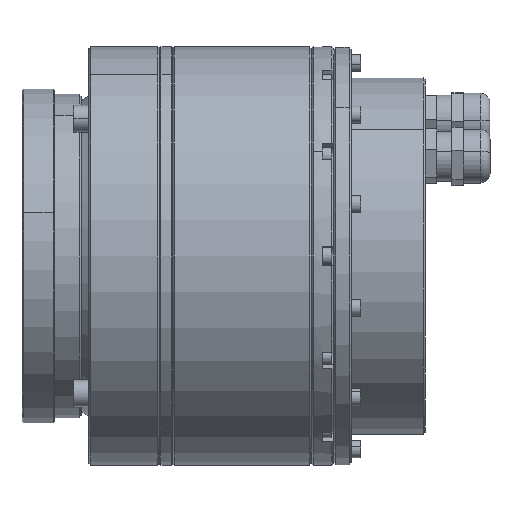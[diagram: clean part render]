
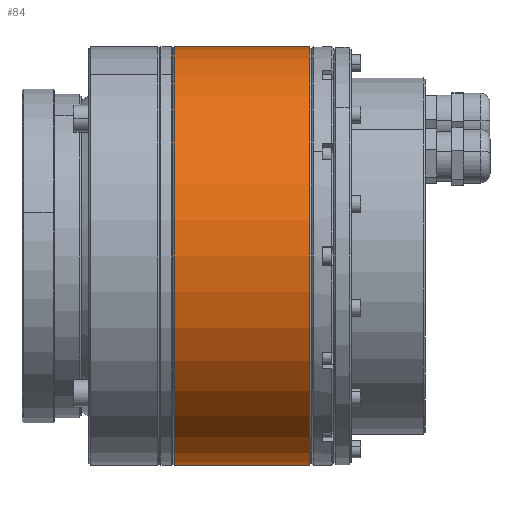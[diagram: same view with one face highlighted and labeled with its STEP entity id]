
A CAD part, front view. The second image highlights one B-rep face of the part: STEP entity #84.
In plain terms, the highlighted cylindrical face has radius 55 mm (diameter 110 mm), a partial arc.
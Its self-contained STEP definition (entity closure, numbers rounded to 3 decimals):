
#84 = ADVANCED_FACE ( 'NONE', ( #27922 ), #41310, .T. ) ;
#2616 = EDGE_CURVE ( 'NONE', #23062, #37547, #18535, .T. ) ;
#12339 = CARTESIAN_POINT ( 'NONE',  ( 2.5, 0., -55. ) ) ;
#16554 = DIRECTION ( 'NONE',  ( -1., 0., 0. ) ) ;
#16631 = EDGE_CURVE ( 'NONE', #50410, #23062, #48605, .T. ) ;
#18535 = LINE ( 'NONE', #21208, #34267 ) ;
#19099 = VERTEX_POINT ( 'NONE', #12339 ) ;
#19769 = DIRECTION ( 'NONE',  ( -1., 0., 0. ) ) ;
#21208 = CARTESIAN_POINT ( 'NONE',  ( 38.5, 0., 55. ) ) ;
#22548 = CARTESIAN_POINT ( 'NONE',  ( 2.5, 0., 55. ) ) ;
#23062 = VERTEX_POINT ( 'NONE', #29897 ) ;
#25658 = DIRECTION ( 'NONE',  ( 0., 0., 1. ) ) ;
#25817 = EDGE_LOOP ( 'NONE', ( #27692, #49999, #55089, #61048 ) ) ;
#26091 = AXIS2_PLACEMENT_3D ( 'NONE', #51269, #55429, #62940 ) ;
#26348 = DIRECTION ( 'NONE',  ( -1., 0., 0. ) ) ;
#27692 = ORIENTED_EDGE ( 'NONE', *, *, #51538, .F. ) ;
#27922 = FACE_OUTER_BOUND ( 'NONE', #25817, .T. ) ;
#29897 = CARTESIAN_POINT ( 'NONE',  ( 38., 0., 55. ) ) ;
#30133 = CARTESIAN_POINT ( 'NONE',  ( 38., 0., -55. ) ) ;
#30524 = CARTESIAN_POINT ( 'NONE',  ( 2.5, 0., 0. ) ) ;
#34267 = VECTOR ( 'NONE', #16554, 1000. ) ;
#34513 = EDGE_CURVE ( 'NONE', #37547, #19099, #46658, .T. ) ;
#37547 = VERTEX_POINT ( 'NONE', #22548 ) ;
#40668 = CARTESIAN_POINT ( 'NONE',  ( 38.5, 0., -55. ) ) ;
#41310 = CYLINDRICAL_SURFACE ( 'NONE', #61228, 55. ) ;
#45263 = VECTOR ( 'NONE', #26348, 1000. ) ;
#46308 = DIRECTION ( 'NONE',  ( 1., 0., 0. ) ) ;
#46658 = CIRCLE ( 'NONE', #48424, 55. ) ;
#48424 = AXIS2_PLACEMENT_3D ( 'NONE', #30524, #46308, #25658 ) ;
#48605 = CIRCLE ( 'NONE', #26091, 55. ) ;
#49999 = ORIENTED_EDGE ( 'NONE', *, *, #16631, .T. ) ;
#50410 = VERTEX_POINT ( 'NONE', #30133 ) ;
#50735 = DIRECTION ( 'NONE',  ( 0., 0., 1. ) ) ;
#51269 = CARTESIAN_POINT ( 'NONE',  ( 38., 0., 0. ) ) ;
#51538 = EDGE_CURVE ( 'NONE', #50410, #19099, #58570, .T. ) ;
#55089 = ORIENTED_EDGE ( 'NONE', *, *, #2616, .T. ) ;
#55429 = DIRECTION ( 'NONE',  ( -1., 0., 0. ) ) ;
#58570 = LINE ( 'NONE', #40668, #45263 ) ;
#61048 = ORIENTED_EDGE ( 'NONE', *, *, #34513, .T. ) ;
#61228 = AXIS2_PLACEMENT_3D ( 'NONE', #64809, #19769, #50735 ) ;
#62940 = DIRECTION ( 'NONE',  ( 0., 0., -1. ) ) ;
#64809 = CARTESIAN_POINT ( 'NONE',  ( 38.5, 0., 0. ) ) ;
